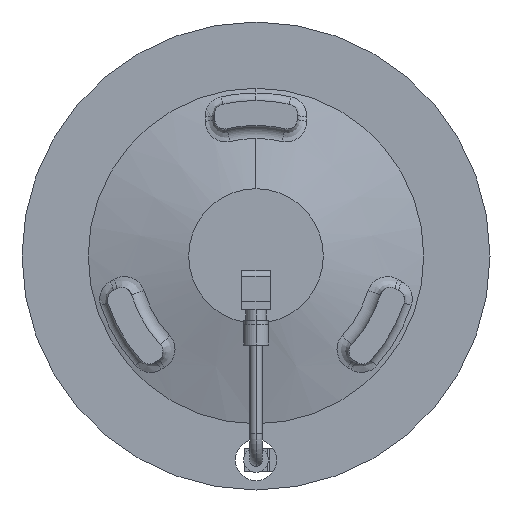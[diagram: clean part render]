
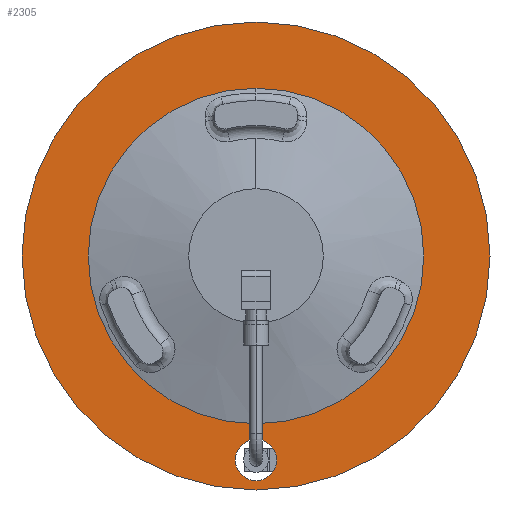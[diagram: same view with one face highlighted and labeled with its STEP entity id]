
A CAD part, front view. The second image highlights one B-rep face of the part: STEP entity #2305.
In plain terms, the highlighted planar face has unit normal (0, -1, 0).
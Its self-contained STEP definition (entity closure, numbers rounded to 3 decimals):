
#162 = DIRECTION ( 'NONE',  ( 0., 0., -1. ) ) ;
#581 = CIRCLE ( 'NONE', #1987, 113. ) ;
#878 = DIRECTION ( 'NONE',  ( 0., 0., -1. ) ) ;
#1123 = CARTESIAN_POINT ( 'NONE',  ( -113., -151.8, 0. ) ) ;
#1751 = EDGE_LOOP ( 'NONE', ( #2704, #4181 ) ) ;
#1987 = AXIS2_PLACEMENT_3D ( 'NONE', #10266, #5418, #10766 ) ;
#2305 = ADVANCED_FACE ( 'NONE', ( #7542, #3596, #14363 ), #10516, .T. ) ;
#2360 = DIRECTION ( 'NONE',  ( 0., -1., 0. ) ) ;
#2398 = DIRECTION ( 'NONE',  ( 0., 0., -1. ) ) ;
#2480 = AXIS2_PLACEMENT_3D ( 'NONE', #13173, #3811, #2398 ) ;
#2527 = CARTESIAN_POINT ( 'NONE',  ( 0., -151.8, -98.5 ) ) ;
#2637 = EDGE_LOOP ( 'NONE', ( #4109, #3147 ) ) ;
#2704 = ORIENTED_EDGE ( 'NONE', *, *, #7880, .F. ) ;
#2711 = CIRCLE ( 'NONE', #9998, 81.017 ) ;
#3147 = ORIENTED_EDGE ( 'NONE', *, *, #4417, .F. ) ;
#3323 = EDGE_LOOP ( 'NONE', ( #10706, #8144 ) ) ;
#3596 = FACE_BOUND ( 'NONE', #3323, .T. ) ;
#3679 = CARTESIAN_POINT ( 'NONE',  ( 0., -151.8, 0. ) ) ;
#3811 = DIRECTION ( 'NONE',  ( 0., -1., 0. ) ) ;
#3985 = CARTESIAN_POINT ( 'NONE',  ( 0., -151.8, -113. ) ) ;
#4109 = ORIENTED_EDGE ( 'NONE', *, *, #10109, .F. ) ;
#4181 = ORIENTED_EDGE ( 'NONE', *, *, #11328, .F. ) ;
#4417 = EDGE_CURVE ( 'NONE', #5863, #12372, #581, .T. ) ;
#4435 = VERTEX_POINT ( 'NONE', #9551 ) ;
#5418 = DIRECTION ( 'NONE',  ( 0., 1., 0. ) ) ;
#5424 = VERTEX_POINT ( 'NONE', #14031 ) ;
#5595 = CARTESIAN_POINT ( 'NONE',  ( 0., -151.8, 113. ) ) ;
#5863 = VERTEX_POINT ( 'NONE', #3985 ) ;
#6103 = CIRCLE ( 'NONE', #10869, 113. ) ;
#6444 = AXIS2_PLACEMENT_3D ( 'NONE', #14083, #12843, #14253 ) ;
#6832 = DIRECTION ( 'NONE',  ( 0., -1., 0. ) ) ;
#7542 = FACE_BOUND ( 'NONE', #1751, .T. ) ;
#7796 = CIRCLE ( 'NONE', #2480, 10. ) ;
#7824 = DIRECTION ( 'NONE',  ( 0., 1., 0. ) ) ;
#7880 = EDGE_CURVE ( 'NONE', #5424, #16348, #14636, .T. ) ;
#8144 = ORIENTED_EDGE ( 'NONE', *, *, #13035, .T. ) ;
#8355 = EDGE_CURVE ( 'NONE', #9471, #4435, #13449, .T. ) ;
#9471 = VERTEX_POINT ( 'NONE', #16976 ) ;
#9551 = CARTESIAN_POINT ( 'NONE',  ( 0., -151.8, -81.017 ) ) ;
#9998 = AXIS2_PLACEMENT_3D ( 'NONE', #17293, #7824, #10286 ) ;
#10021 = AXIS2_PLACEMENT_3D ( 'NONE', #1123, #2360, #878 ) ;
#10109 = EDGE_CURVE ( 'NONE', #12372, #5863, #6103, .T. ) ;
#10266 = CARTESIAN_POINT ( 'NONE',  ( 0., -151.8, 0. ) ) ;
#10286 = DIRECTION ( 'NONE',  ( 0., 0., 1. ) ) ;
#10516 = PLANE ( 'NONE',  #10021 ) ;
#10517 = DIRECTION ( 'NONE',  ( 0., 0., 1. ) ) ;
#10706 = ORIENTED_EDGE ( 'NONE', *, *, #8355, .T. ) ;
#10766 = DIRECTION ( 'NONE',  ( 0., 0., 1. ) ) ;
#10869 = AXIS2_PLACEMENT_3D ( 'NONE', #3679, #17263, #10517 ) ;
#11328 = EDGE_CURVE ( 'NONE', #16348, #5424, #7796, .T. ) ;
#12372 = VERTEX_POINT ( 'NONE', #5595 ) ;
#12843 = DIRECTION ( 'NONE',  ( 0., 1., 0. ) ) ;
#13035 = EDGE_CURVE ( 'NONE', #4435, #9471, #2711, .T. ) ;
#13173 = CARTESIAN_POINT ( 'NONE',  ( 0., -151.8, -98.5 ) ) ;
#13449 = CIRCLE ( 'NONE', #6444, 81.017 ) ;
#13463 = CARTESIAN_POINT ( 'NONE',  ( 0., -151.8, -108.5 ) ) ;
#14031 = CARTESIAN_POINT ( 'NONE',  ( 0., -151.8, -88.5 ) ) ;
#14081 = AXIS2_PLACEMENT_3D ( 'NONE', #2527, #6832, #162 ) ;
#14083 = CARTESIAN_POINT ( 'NONE',  ( 0., -151.8, 0. ) ) ;
#14253 = DIRECTION ( 'NONE',  ( 0., 0., 1. ) ) ;
#14363 = FACE_OUTER_BOUND ( 'NONE', #2637, .T. ) ;
#14636 = CIRCLE ( 'NONE', #14081, 10. ) ;
#16348 = VERTEX_POINT ( 'NONE', #13463 ) ;
#16976 = CARTESIAN_POINT ( 'NONE',  ( 0., -151.8, 81.017 ) ) ;
#17263 = DIRECTION ( 'NONE',  ( 0., 1., 0. ) ) ;
#17293 = CARTESIAN_POINT ( 'NONE',  ( 0., -151.8, 0. ) ) ;
